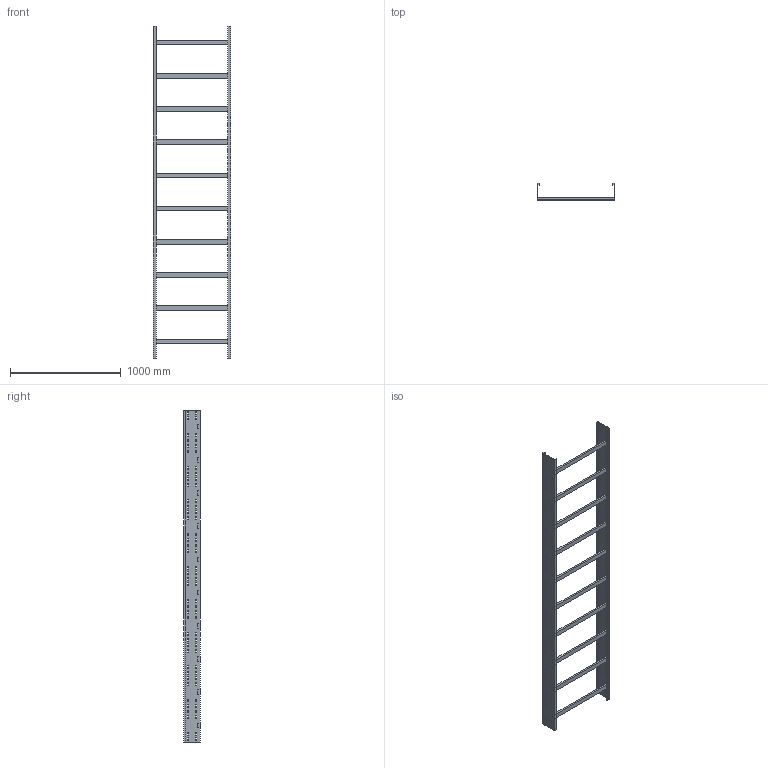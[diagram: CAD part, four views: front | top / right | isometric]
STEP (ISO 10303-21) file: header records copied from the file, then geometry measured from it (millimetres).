
FILE_DESCRIPTION (( 'STEP AP214' ), '1' );
FILE_NAME ('01J3F700.step', '2025-02-21T16:29:28', ( '' ), ( '' ), 'SwSTEP 2.0', 'SolidWorks 2023', '' );
FILE_SCHEMA (( 'AUTOMOTIVE_DESIGN' ));
Length unit declared in the file: millimetre
Products named in the file (3): TRAVERSINO_700; 01J3F700; LONGH.H150
Assembly tree (12 placements, depth 2):
  01J3F700
    LONGH.H150  x2
    TRAVERSINO_700  x10
Bounding box: 700 x 150 x 3000 mm (x, y, z)
Volume: 8817600 mm3; surface area: 3126288 mm2
Topology: 12 solids, 12 shells, 720 faces, 2088 edges, 1392 vertices
Faces by surface type: plane 720
Entity records: 11488 total; most frequent: CARTESIAN_POINT 2011, ORIENTED_EDGE 1992, DIRECTION 1698, EDGE_CURVE 996, VECTOR 996, LINE 996, VERTEX_POINT 664, EDGE_LOOP 496
